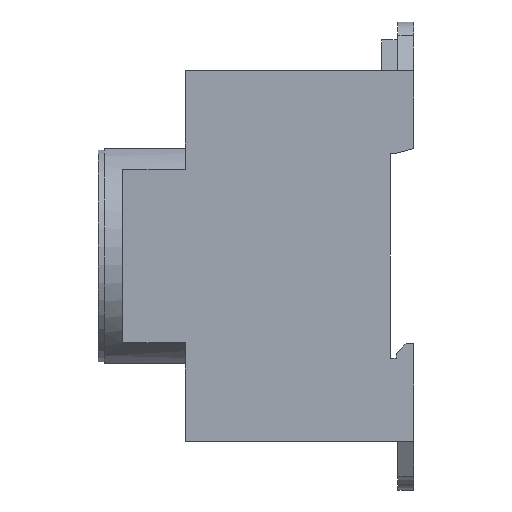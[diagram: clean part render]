
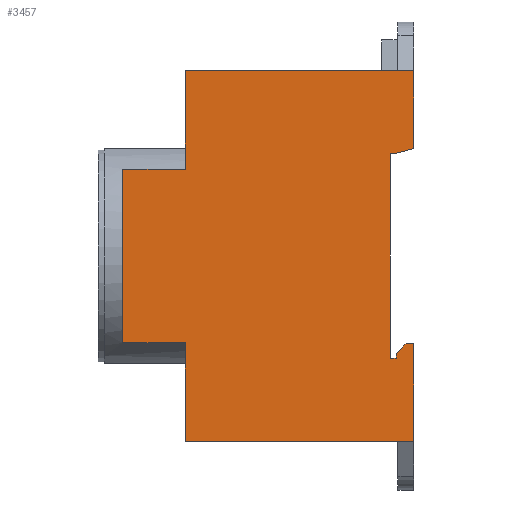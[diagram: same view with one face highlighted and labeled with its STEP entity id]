
A CAD part, left-side view. The second image highlights one B-rep face of the part: STEP entity #3457.
In plain terms, the highlighted planar face has unit normal (-1, 0, 0).
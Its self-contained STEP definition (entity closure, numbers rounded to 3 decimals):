
#38 = VERTEX_POINT ( 'NONE', #2990 ) ;
#60 = VERTEX_POINT ( 'NONE', #3522 ) ;
#74 = CARTESIAN_POINT ( 'NONE',  ( -24., 39.4, 32. ) ) ;
#89 = CARTESIAN_POINT ( 'NONE',  ( -24., 0., -15.15 ) ) ;
#90 = VECTOR ( 'NONE', #2654, 1000. ) ;
#107 = DIRECTION ( 'NONE',  ( 0., 1., 0. ) ) ;
#115 = DIRECTION ( 'NONE',  ( 0., 0., -1. ) ) ;
#116 = VECTOR ( 'NONE', #107, 1000. ) ;
#149 = ORIENTED_EDGE ( 'NONE', *, *, #3671, .T. ) ;
#156 = DIRECTION ( 'NONE',  ( 0., -1., 0. ) ) ;
#209 = VECTOR ( 'NONE', #3223, 1000. ) ;
#223 = VECTOR ( 'NONE', #1727, 1000. ) ;
#252 = CARTESIAN_POINT ( 'NONE',  ( -24., 39.4, -15. ) ) ;
#426 = LINE ( 'NONE', #2964, #2319 ) ;
#428 = ORIENTED_EDGE ( 'NONE', *, *, #3587, .T. ) ;
#429 = VERTEX_POINT ( 'NONE', #3403 ) ;
#447 = LINE ( 'NONE', #1938, #861 ) ;
#466 = VECTOR ( 'NONE', #2458, 1000. ) ;
#479 = VERTEX_POINT ( 'NONE', #3193 ) ;
#491 = AXIS2_PLACEMENT_3D ( 'NONE', #1450, #1479, #1443 ) ;
#656 = LINE ( 'NONE', #852, #3794 ) ;
#745 = LINE ( 'NONE', #2669, #90 ) ;
#852 = CARTESIAN_POINT ( 'NONE',  ( -24., 3., -17.65 ) ) ;
#861 = VECTOR ( 'NONE', #1947, 1000. ) ;
#865 = VERTEX_POINT ( 'NONE', #3171 ) ;
#873 = VERTEX_POINT ( 'NONE', #3149 ) ;
#884 = CARTESIAN_POINT ( 'NONE',  ( -24., 0., -32. ) ) ;
#920 = DIRECTION ( 'NONE',  ( 0., 1., 0. ) ) ;
#964 = FACE_OUTER_BOUND ( 'NONE', #1347, .T. ) ;
#982 = ORIENTED_EDGE ( 'NONE', *, *, #3099, .T. ) ;
#1070 = CARTESIAN_POINT ( 'NONE',  ( -24., 39.4, -15. ) ) ;
#1108 = ORIENTED_EDGE ( 'NONE', *, *, #3585, .T. ) ;
#1136 = CARTESIAN_POINT ( 'NONE',  ( -24., 39.4, 32. ) ) ;
#1147 = ORIENTED_EDGE ( 'NONE', *, *, #3584, .T. ) ;
#1151 = LINE ( 'NONE', #1712, #2223 ) ;
#1163 = DIRECTION ( 'NONE',  ( 0., 1., 0. ) ) ;
#1169 = VECTOR ( 'NONE', #3682, 1000. ) ;
#1210 = ORIENTED_EDGE ( 'NONE', *, *, #2312, .T. ) ;
#1214 = VERTEX_POINT ( 'NONE', #2795 ) ;
#1238 = VECTOR ( 'NONE', #1163, 1000. ) ;
#1261 = VERTEX_POINT ( 'NONE', #2813 ) ;
#1347 = EDGE_LOOP ( 'NONE', ( #3025, #1210, #3668, #2103, #3404, #1108, #1851, #1701, #1147, #982, #149, #3282, #428, #3899, #2292, #3786 ) ) ;
#1443 = DIRECTION ( 'NONE',  ( 0., 0., 1. ) ) ;
#1450 = CARTESIAN_POINT ( 'NONE',  ( -24., 39.4, 32. ) ) ;
#1479 = DIRECTION ( 'NONE',  ( -1., 0., 0. ) ) ;
#1494 = PLANE ( 'NONE',  #491 ) ;
#1524 = CARTESIAN_POINT ( 'NONE',  ( -24., 4., 32. ) ) ;
#1580 = DIRECTION ( 'NONE',  ( 0., 0., 1. ) ) ;
#1585 = LINE ( 'NONE', #252, #2834 ) ;
#1609 = VERTEX_POINT ( 'NONE', #2696 ) ;
#1610 = VERTEX_POINT ( 'NONE', #2618 ) ;
#1613 = VERTEX_POINT ( 'NONE', #2658 ) ;
#1659 = VERTEX_POINT ( 'NONE', #2582 ) ;
#1669 = CARTESIAN_POINT ( 'NONE',  ( -24., 1.3, -15.15 ) ) ;
#1678 = VECTOR ( 'NONE', #1952, 1000. ) ;
#1686 = DIRECTION ( 'NONE',  ( 0., 0., 1. ) ) ;
#1701 = ORIENTED_EDGE ( 'NONE', *, *, #3654, .T. ) ;
#1712 = CARTESIAN_POINT ( 'NONE',  ( -24., 0., 32. ) ) ;
#1718 = LINE ( 'NONE', #1719, #2026 ) ;
#1719 = CARTESIAN_POINT ( 'NONE',  ( -24., 3., -16.85 ) ) ;
#1727 = DIRECTION ( 'NONE',  ( 0., 0.707, -0.707 ) ) ;
#1732 = LINE ( 'NONE', #1988, #1678 ) ;
#1757 = DIRECTION ( 'NONE',  ( 0., 0., -1. ) ) ;
#1809 = VECTOR ( 'NONE', #1580, 1000. ) ;
#1851 = ORIENTED_EDGE ( 'NONE', *, *, #3651, .T. ) ;
#1875 = LINE ( 'NONE', #3575, #1169 ) ;
#1898 = VERTEX_POINT ( 'NONE', #2579 ) ;
#1938 = CARTESIAN_POINT ( 'NONE',  ( -24., 4., 17.65 ) ) ;
#1947 = DIRECTION ( 'NONE',  ( 0., -1., 0. ) ) ;
#1952 = DIRECTION ( 'NONE',  ( 0., -1., 0. ) ) ;
#1988 = CARTESIAN_POINT ( 'NONE',  ( -24., 39.4, -32. ) ) ;
#2026 = VECTOR ( 'NONE', #1757, 1000. ) ;
#2083 = VERTEX_POINT ( 'NONE', #2402 ) ;
#2103 = ORIENTED_EDGE ( 'NONE', *, *, #2823, .T. ) ;
#2186 = VECTOR ( 'NONE', #115, 1000. ) ;
#2223 = VECTOR ( 'NONE', #1686, 1000. ) ;
#2292 = ORIENTED_EDGE ( 'NONE', *, *, #2339, .T. ) ;
#2312 = EDGE_CURVE ( 'NONE', #1898, #60, #447, .T. ) ;
#2319 = VECTOR ( 'NONE', #2630, 1000. ) ;
#2339 = EDGE_CURVE ( 'NONE', #2083, #1261, #1718, .T. ) ;
#2342 = CARTESIAN_POINT ( 'NONE',  ( -24., 0., 32. ) ) ;
#2402 = CARTESIAN_POINT ( 'NONE',  ( -24., 3., -16.85 ) ) ;
#2440 = EDGE_CURVE ( 'NONE', #1214, #865, #3390, .T. ) ;
#2458 = DIRECTION ( 'NONE',  ( 0., 0., 1. ) ) ;
#2511 = EDGE_CURVE ( 'NONE', #1261, #479, #656, .T. ) ;
#2579 = CARTESIAN_POINT ( 'NONE',  ( -24., 4., 17.65 ) ) ;
#2582 = CARTESIAN_POINT ( 'NONE',  ( -24., 50.2, -15. ) ) ;
#2593 = LINE ( 'NONE', #1524, #1809 ) ;
#2618 = CARTESIAN_POINT ( 'NONE',  ( -24., 0., 18.534 ) ) ;
#2630 = DIRECTION ( 'NONE',  ( 0., 1., 0. ) ) ;
#2654 = DIRECTION ( 'NONE',  ( 0., 0., -1. ) ) ;
#2658 = CARTESIAN_POINT ( 'NONE',  ( -24., 50.2, 15. ) ) ;
#2669 = CARTESIAN_POINT ( 'NONE',  ( -24., 50.2, 32. ) ) ;
#2680 = EDGE_CURVE ( 'NONE', #60, #1610, #2957, .T. ) ;
#2696 = CARTESIAN_POINT ( 'NONE',  ( -24., 39.4, -32. ) ) ;
#2787 = CARTESIAN_POINT ( 'NONE',  ( -24., 3.3, 17.65 ) ) ;
#2795 = CARTESIAN_POINT ( 'NONE',  ( -24., 0., 32. ) ) ;
#2797 = LINE ( 'NONE', #1669, #223 ) ;
#2813 = CARTESIAN_POINT ( 'NONE',  ( -24., 3., -17.65 ) ) ;
#2821 = LINE ( 'NONE', #74, #2186 ) ;
#2823 = EDGE_CURVE ( 'NONE', #1610, #1214, #3389, .T. ) ;
#2834 = VECTOR ( 'NONE', #156, 1000. ) ;
#2957 = LINE ( 'NONE', #2787, #209 ) ;
#2964 = CARTESIAN_POINT ( 'NONE',  ( -24., 39.4, 15. ) ) ;
#2990 = CARTESIAN_POINT ( 'NONE',  ( -24., 1.3, -15.15 ) ) ;
#3025 = ORIENTED_EDGE ( 'NONE', *, *, #3691, .T. ) ;
#3099 = EDGE_CURVE ( 'NONE', #4038, #1609, #1875, .T. ) ;
#3149 = CARTESIAN_POINT ( 'NONE',  ( -24., 39.4, 15. ) ) ;
#3171 = CARTESIAN_POINT ( 'NONE',  ( -24., 39.4, 32. ) ) ;
#3193 = CARTESIAN_POINT ( 'NONE',  ( -24., 4., -17.65 ) ) ;
#3223 = DIRECTION ( 'NONE',  ( 0., -0.966, 0.259 ) ) ;
#3282 = ORIENTED_EDGE ( 'NONE', *, *, #3683, .T. ) ;
#3389 = LINE ( 'NONE', #2342, #466 ) ;
#3390 = LINE ( 'NONE', #1136, #1238 ) ;
#3403 = CARTESIAN_POINT ( 'NONE',  ( -24., 0., -15.15 ) ) ;
#3404 = ORIENTED_EDGE ( 'NONE', *, *, #2440, .T. ) ;
#3457 = ADVANCED_FACE ( 'NONE', ( #964 ), #1494, .T. ) ;
#3513 = VERTEX_POINT ( 'NONE', #884 ) ;
#3522 = CARTESIAN_POINT ( 'NONE',  ( -24., 3.3, 17.65 ) ) ;
#3575 = CARTESIAN_POINT ( 'NONE',  ( -24., 39.4, 32. ) ) ;
#3584 = EDGE_CURVE ( 'NONE', #1659, #4038, #1585, .T. ) ;
#3585 = EDGE_CURVE ( 'NONE', #865, #873, #2821, .T. ) ;
#3587 = EDGE_CURVE ( 'NONE', #429, #38, #4085, .T. ) ;
#3651 = EDGE_CURVE ( 'NONE', #873, #1613, #426, .T. ) ;
#3654 = EDGE_CURVE ( 'NONE', #1613, #1659, #745, .T. ) ;
#3668 = ORIENTED_EDGE ( 'NONE', *, *, #2680, .T. ) ;
#3671 = EDGE_CURVE ( 'NONE', #1609, #3513, #1732, .T. ) ;
#3682 = DIRECTION ( 'NONE',  ( 0., 0., -1. ) ) ;
#3683 = EDGE_CURVE ( 'NONE', #3513, #429, #1151, .T. ) ;
#3686 = EDGE_CURVE ( 'NONE', #38, #2083, #2797, .T. ) ;
#3691 = EDGE_CURVE ( 'NONE', #479, #1898, #2593, .T. ) ;
#3786 = ORIENTED_EDGE ( 'NONE', *, *, #2511, .T. ) ;
#3794 = VECTOR ( 'NONE', #920, 1000. ) ;
#3899 = ORIENTED_EDGE ( 'NONE', *, *, #3686, .T. ) ;
#4038 = VERTEX_POINT ( 'NONE', #1070 ) ;
#4085 = LINE ( 'NONE', #89, #116 ) ;
